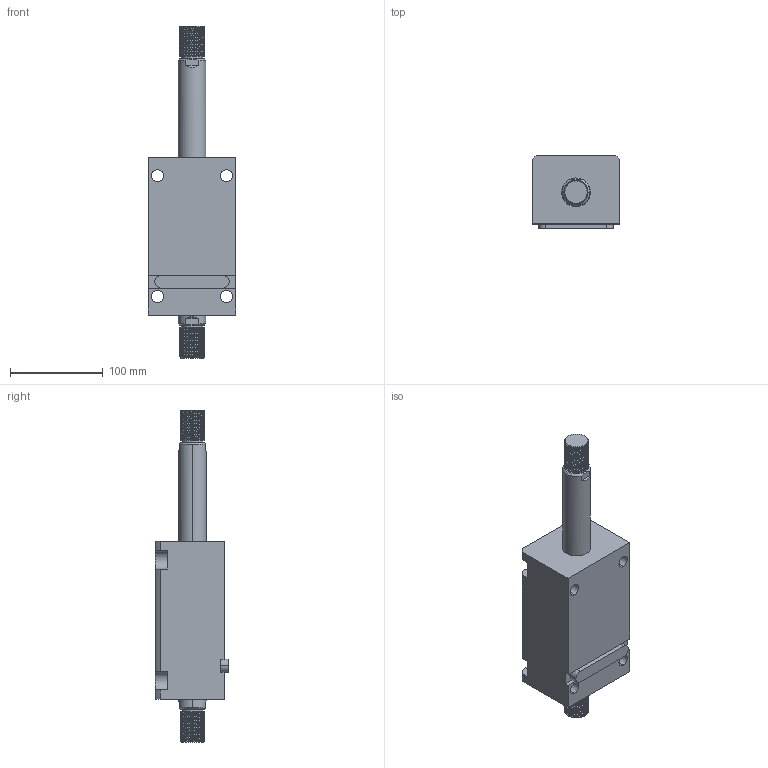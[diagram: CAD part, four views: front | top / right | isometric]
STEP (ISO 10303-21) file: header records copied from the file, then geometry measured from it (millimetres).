
FILE_DESCRIPTION (( 'STEP AP203' ), '1' );
FILE_NAME ('CHTB-LW50-95W.STEP', '2018-05-18T10:03:15', ( '' ), ( '' ), 'SwSTEP 2.0', 'SolidWorks 2015', '' );
FILE_SCHEMA (( 'CONFIG_CONTROL_DESIGN' ));
Length unit declared in the file: millimetre
Products named in the file (4): CHTM-SDMA50QG; CHTB-LW50-95W; 活塞杆SW50-95W; 掛极LW50-95W
Assembly tree (3 placements, depth 2):
  CHTB-LW50-95W
    掛极LW50-95W
    活塞杆SW50-95W
    CHTM-SDMA50QG
Bounding box: 94 x 79 x 357 mm (x, y, z)
Volume: 1123970.6 mm3; surface area: 164350.4 mm2
Topology: 3 solids, 3 shells, 310 faces, 854 edges, 568 vertices
Faces by surface type: cylinder 186, plane 63, cone 27, bspline 18, torus 16
Entity records: 19510 total; most frequent: CARTESIAN_POINT 11940, ORIENTED_EDGE 1700, DIRECTION 1310, EDGE_CURVE 850, VERTEX_POINT 568, AXIS2_PLACEMENT_3D 503, EDGE_LOOP 348, FACE_OUTER_BOUND 310
